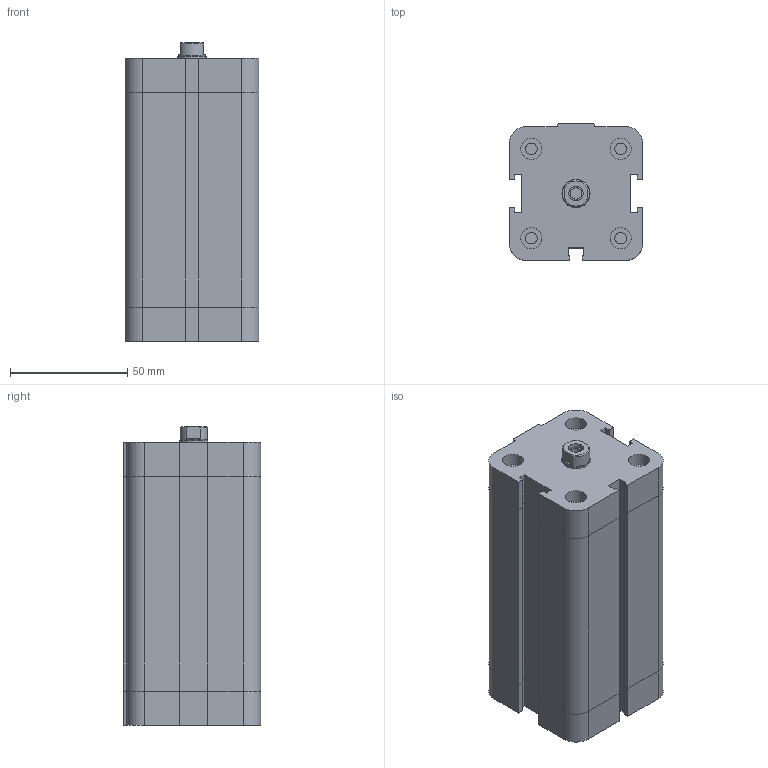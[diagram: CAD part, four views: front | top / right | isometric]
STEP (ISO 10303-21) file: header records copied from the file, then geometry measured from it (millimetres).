
FILE_DESCRIPTION((''),'2;1');
FILE_NAME('I:\Area Tecnica\Disegni\VARIE-3D\Componenti\EUROPE\15##_###_####_01_#\1561_40_0075_01_1.stp','2008-12-19T15:25:40',('rivolro1'),(''),'Autodesk Inventor 2009','Autodesk Inventor 2009','');
FILE_SCHEMA(('AUTOMOTIVE_DESIGN { 1 0 10303 214 1 1 1 1 }'));
Length unit declared in the file: millimetre
Products named in the file (3): 1561_40_0075_01_1; 1561_40_0075_01_1_C; 1561_40_0075_01_1_S
Assembly tree (2 placements, depth 2):
  1561_40_0075_01_1
    1561_40_0075_01_1_C
    1561_40_0075_01_1_S
Bounding box: 57 x 58.5 x 127 mm (x, y, z)
Volume: 360334.4 mm3; surface area: 49615.4 mm2
Topology: 2 solids, 2 shells, 163 faces, 349 edges, 211 vertices
Faces by surface type: plane 112, bspline 26, cylinder 22, cone 3
Full cylindrical faces by diameter (mm): 4.917 x4, 9 x4, 11.7 x1, 12 x1
Entity records: 4455 total; most frequent: CARTESIAN_POINT 952, DIRECTION 662, ORIENTED_EDGE 630, EDGE_CURVE 315, VECTOR 244, LINE 244, AXIS2_PLACEMENT_3D 209, EDGE_LOOP 208
